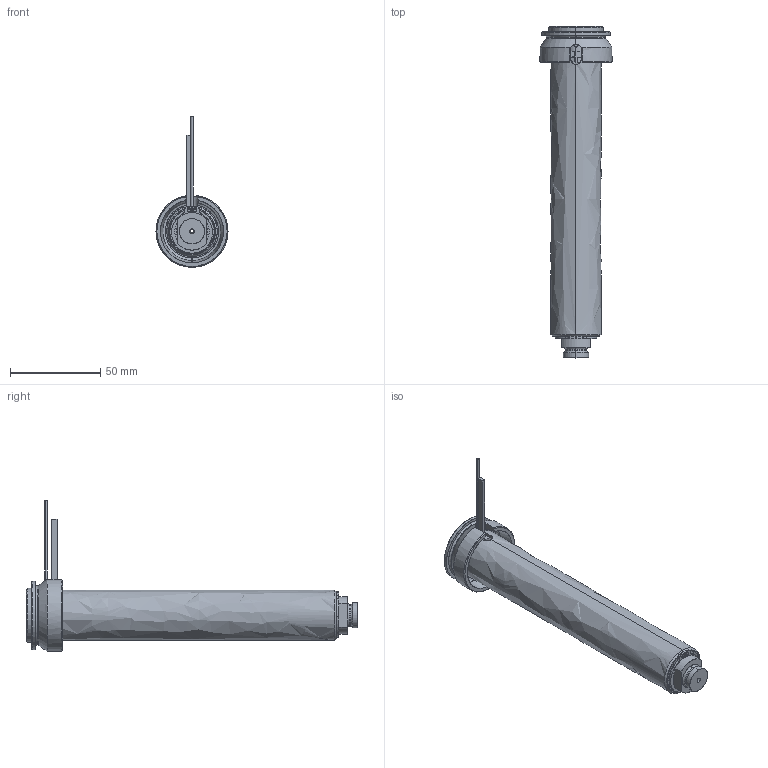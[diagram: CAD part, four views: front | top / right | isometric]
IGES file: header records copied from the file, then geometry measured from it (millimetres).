
Start section: SolidWorks IGES file using analytic representation for surfaces
Global section: file name: C:\Documents and Settings\ws-20\Desktop\TEMPORANEA\UGBE4004-M-A-3 [Ød-2.0 P-0 ØC-10].IGS; native system: SolidWorks 2012; preprocessor: SolidWorks 2012; author: ws-20; date: 120306.140951; units: millimetre
Bounding box: 40 x 184.25 x 83.65 mm (x, y, z)
Surface area: 54712.4 mm2 (no closed solid volume)
Topology: 0 solids, 0 shells, 106 faces, 1785 edges, 1785 vertices
Faces by surface type: revolution 60, bspline 46
